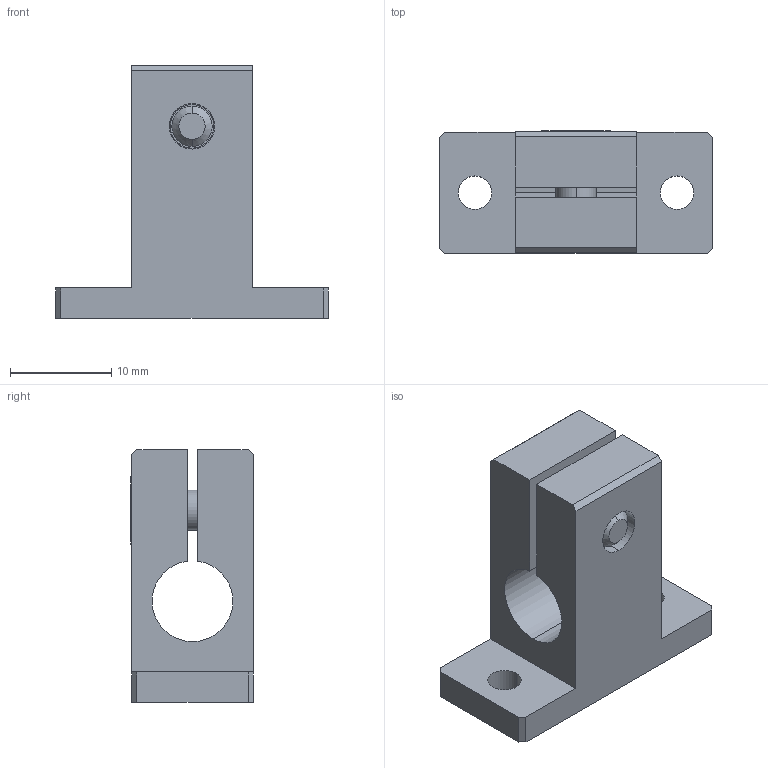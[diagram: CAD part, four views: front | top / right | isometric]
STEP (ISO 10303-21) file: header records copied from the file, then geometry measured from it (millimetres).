
FILE_DESCRIPTION (( 'STEP AP214' ), '1' );
FILE_NAME ('SMBT5-8.STEP', '2019-11-06T06:58:45', ( '微软用户' ), ( '微软中国' ), 'SwSTEP 2.0', 'SolidWorks 2016', '' );
FILE_SCHEMA (( 'AUTOMOTIVE_DESIGN' ));
Length unit declared in the file: millimetre
Products named in the file (1): SMBT5-8
Bounding box: 27 x 12.1 x 25 mm (x, y, z)
Volume: 3262.6 mm3; surface area: 2877.6 mm2
Topology: 3 solids, 3 shells, 246 faces, 705 edges, 466 vertices
Faces by surface type: plane 222, cylinder 20, cone 2, bspline 2
Entity records: 10962 total; most frequent: CARTESIAN_POINT 1542, DIRECTION 1417, ORIENTED_EDGE 1410, EDGE_CURVE 705, VECTOR 475, LINE 475, AXIS2_PLACEMENT_3D 471, VERTEX_POINT 466
